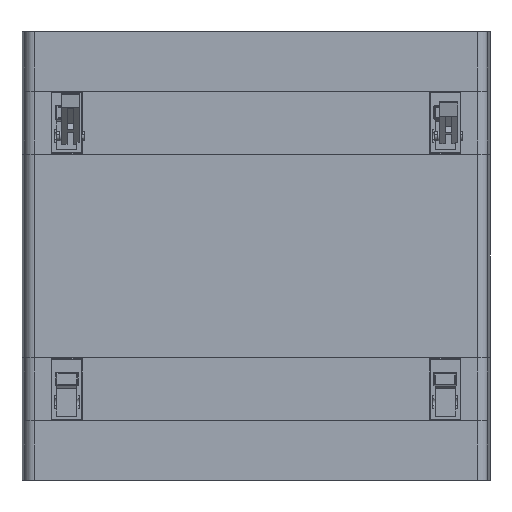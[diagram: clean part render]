
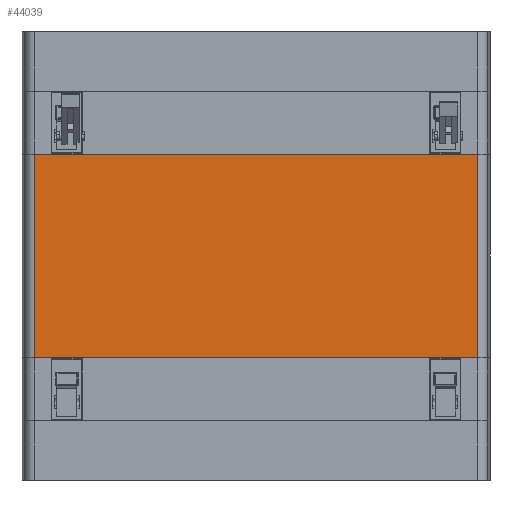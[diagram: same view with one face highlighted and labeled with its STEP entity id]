
A CAD part, front view. The second image highlights one B-rep face of the part: STEP entity #44039.
In plain terms, the highlighted planar face has unit normal (0, -1, 0).
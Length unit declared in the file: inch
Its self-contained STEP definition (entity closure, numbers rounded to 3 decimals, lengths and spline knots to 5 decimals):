
#14493 = VECTOR ( 'NONE', #60640, 39.37008 ) ;
#15284 = CARTESIAN_POINT ( 'NONE',  ( 4.85624, 0., 2.236 ) ) ;
#16661 = LINE ( 'NONE', #26243, #14493 ) ;
#16818 = ORIENTED_EDGE ( 'NONE', *, *, #73460, .F. ) ;
#18891 = CARTESIAN_POINT ( 'NONE',  ( 4.85624, 0., 4.925 ) ) ;
#20720 = EDGE_CURVE ( 'NONE', #24819, #36807, #33692, .T. ) ;
#23507 = LINE ( 'NONE', #36645, #78612 ) ;
#24819 = VERTEX_POINT ( 'NONE', #61991 ) ;
#26060 = CARTESIAN_POINT ( 'NONE',  ( 4.85624, 0., -2.236 ) ) ;
#26243 = CARTESIAN_POINT ( 'NONE',  ( -5.661, 0., 2.236 ) ) ;
#28547 = CARTESIAN_POINT ( 'NONE',  ( 4.85624, 0., 4.925 ) ) ;
#31476 = AXIS2_PLACEMENT_3D ( 'NONE', #28547, #83816, #42409 ) ;
#33692 = LINE ( 'NONE', #76275, #56410 ) ;
#34902 = DIRECTION ( 'NONE',  ( 0., 0., -1. ) ) ;
#35476 = PLANE ( 'NONE',  #31476 ) ;
#36598 = EDGE_LOOP ( 'NONE', ( #42278, #66779, #16818, #82827 ) ) ;
#36645 = CARTESIAN_POINT ( 'NONE',  ( -5.661, 0., -2.236 ) ) ;
#36807 = VERTEX_POINT ( 'NONE', #60660 ) ;
#42278 = ORIENTED_EDGE ( 'NONE', *, *, #20720, .T. ) ;
#42409 = DIRECTION ( 'NONE',  ( 0., 0., 1. ) ) ;
#44039 = ADVANCED_FACE ( 'NONE', ( #69239 ), #35476, .F. ) ;
#46341 = DIRECTION ( 'NONE',  ( 0., 0., -1. ) ) ;
#46818 = VECTOR ( 'NONE', #46341, 39.37008 ) ;
#50782 = VERTEX_POINT ( 'NONE', #26060 ) ;
#56410 = VECTOR ( 'NONE', #34902, 39.37008 ) ;
#57361 = EDGE_CURVE ( 'NONE', #36807, #50782, #23507, .T. ) ;
#58252 = EDGE_CURVE ( 'NONE', #24819, #67809, #16661, .T. ) ;
#60640 = DIRECTION ( 'NONE',  ( 1., 0., 0. ) ) ;
#60660 = CARTESIAN_POINT ( 'NONE',  ( -4.85624, 0., -2.236 ) ) ;
#61991 = CARTESIAN_POINT ( 'NONE',  ( -4.85624, 0., 2.236 ) ) ;
#66779 = ORIENTED_EDGE ( 'NONE', *, *, #57361, .T. ) ;
#67809 = VERTEX_POINT ( 'NONE', #15284 ) ;
#69239 = FACE_OUTER_BOUND ( 'NONE', #36598, .T. ) ;
#73460 = EDGE_CURVE ( 'NONE', #67809, #50782, #85747, .T. ) ;
#76275 = CARTESIAN_POINT ( 'NONE',  ( -4.85624, 0., 4.925 ) ) ;
#78612 = VECTOR ( 'NONE', #84974, 39.37008 ) ;
#82827 = ORIENTED_EDGE ( 'NONE', *, *, #58252, .F. ) ;
#83816 = DIRECTION ( 'NONE',  ( 0., 1., 0. ) ) ;
#84974 = DIRECTION ( 'NONE',  ( 1., 0., 0. ) ) ;
#85747 = LINE ( 'NONE', #18891, #46818 ) ;
